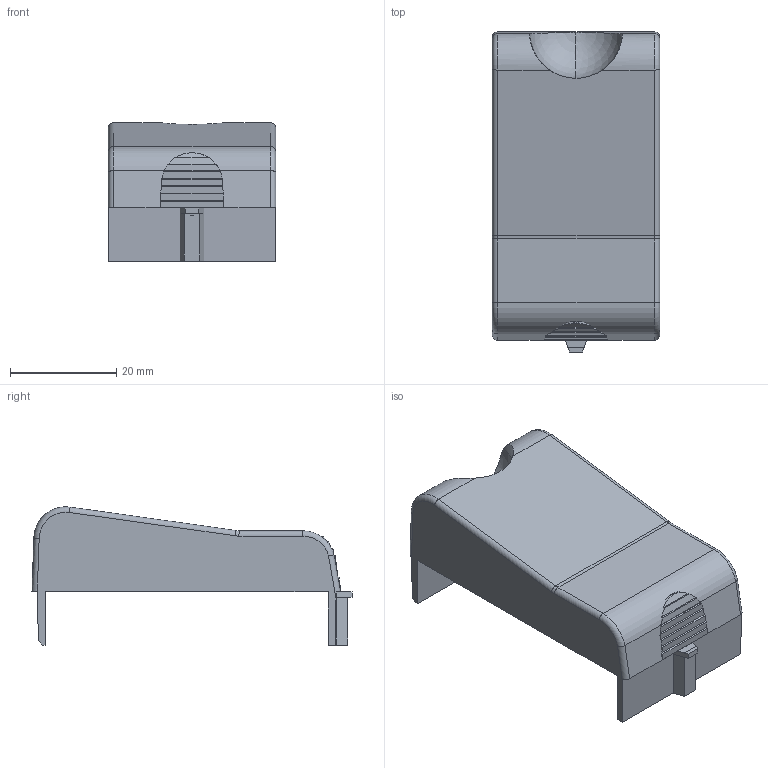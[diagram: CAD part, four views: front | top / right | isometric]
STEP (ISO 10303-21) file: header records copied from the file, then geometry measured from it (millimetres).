
FILE_DESCRIPTION(('FreeCAD Model'),'2;1');
FILE_NAME('V:/SBC/3D/_____410475020_PCD3-IO-Cover-neutral/SBC_STEP_ACC_410475020_PCD3-IO-Cover-neutral_2021-09-05.step','2021-09-06T21:25:53',('Author'), (''),'Open CASCADE STEP processor 7.3','FreeCAD','Unknown');
FILE_SCHEMA(('AUTOMOTIVE_DESIGN { 1 0 10303 214 1 1 1 1 }'));
Length unit declared in the file: millimetre
Products named in the file (2): Riffel; Cut002
Bounding box: 31.5 x 60.2 x 26 mm (x, y, z)
Volume: 6392.7 mm3; surface area: 9335.2 mm2
Topology: 2 solids, 2 shells, 92 faces, 237 edges, 150 vertices
Faces by surface type: plane 61, cylinder 21, torus 6, sphere 4
Full cylindrical faces by diameter (mm): 2 x1
Entity records: 7290 total; most frequent: CARTESIAN_POINT 1997, DIRECTION 895, LINE 523, VECTOR 523, ORIENTED_EDGE 474, PCURVE 474, DEFINITIONAL_REPRESENTATION 474, EDGE_CURVE 237
